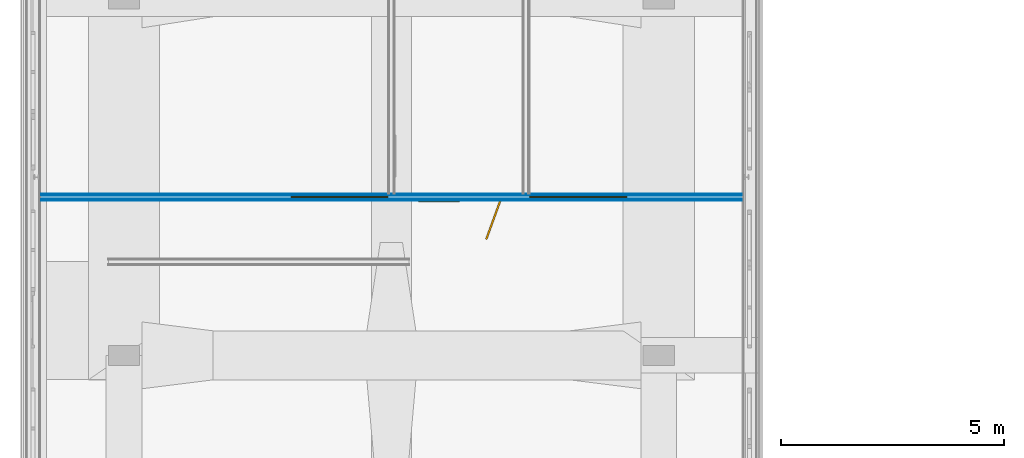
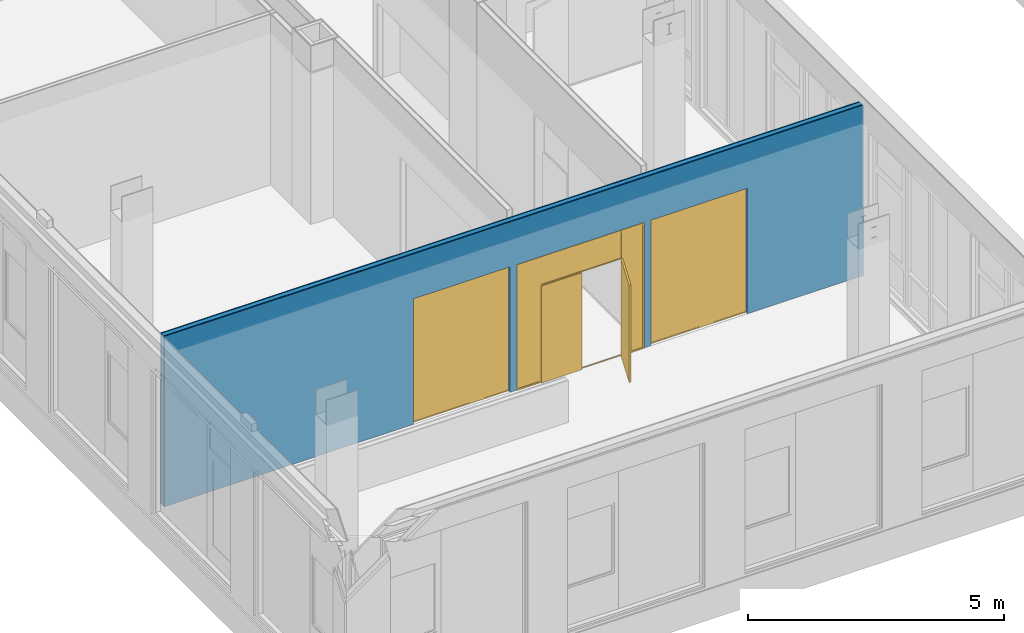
# One storey, part 68 of 94: 5 building element parts, 2 windows, 1 door, 3 openings, 1 element without a shape of its own.
"""IFC2X3 building model written with IfcOpenShell, lengths in millimetres."""

from ifc_helpers import new_model, entity, si_unit, converted_unit, derived_unit, money_unit, direction, frame, origin_with_axes, place, context, subcontext, project, spatial, open_shell, faceted_brep, surface_model, material, type_object, element, fill, aggregate, save


model = new_model("IFC2X3")

# Units and contexts
model_context = context("Model", 3, precision=0.01, world=origin_with_axes(), true_north=direction((0.0, 1.0)))
body_context = subcontext(model_context, "Body", "Model", "MODEL_VIEW")
ifc_project = project(units=[si_unit("LENGTHUNIT", "METRE", prefix="MILLI"), si_unit("AREAUNIT", "SQUARE_METRE"), si_unit("VOLUMEUNIT", "CUBIC_METRE"), converted_unit("PLANEANGLEUNIT", "DEGREE", entity("IfcPlaneAngleMeasure", 0.0174532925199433), si_unit("PLANEANGLEUNIT", "RADIAN"), dimensions=[0, 0, 0, 0, 0, 0, 0]), money_unit("EUR"), converted_unit("TIMEUNIT", "Year", entity("IfcTimeMeasure", 31557600.0), si_unit("TIMEUNIT", "SECOND"), dimensions=[0, 0, 1, 0, 0, 0, 0]), si_unit("MASSUNIT", "GRAM", prefix="KILO"), si_unit("THERMODYNAMICTEMPERATUREUNIT", "DEGREE_CELSIUS"), si_unit("LUMINOUSINTENSITYUNIT", "LUMEN"), si_unit("ENERGYUNIT", "JOULE", prefix="MEGA"), derived_unit("THERMALCONDUCTANCEUNIT", [(si_unit("POWERUNIT", "WATT"), 1), (si_unit("LENGTHUNIT", "METRE"), -1), (si_unit("THERMODYNAMICTEMPERATUREUNIT", "KELVIN"), -1)]), derived_unit("SPECIFICHEATCAPACITYUNIT", [(si_unit("ENERGYUNIT", "JOULE"), 1), (si_unit("MASSUNIT", "GRAM", prefix="KILO"), -1), (si_unit("THERMODYNAMICTEMPERATUREUNIT", "KELVIN"), -1)]), derived_unit("MASSDENSITYUNIT", [(si_unit("MASSUNIT", "GRAM", prefix="KILO"), 1), (si_unit("VOLUMEUNIT", "CUBIC_METRE"), -1)])], contexts=[model_context])

# Site, building, storey
site_placement = place(None, origin_with_axes())
site = spatial("IfcSite", under=ifc_project, at=site_placement, Name="<site naam>", CompositionType="ELEMENT")
building_placement = place(site_placement, origin_with_axes())
building = spatial("IfcBuilding", under=site, at=building_placement, Name="<Naam gebouw>", CompositionType="ELEMENT")
storey_placement = place(building_placement, frame((0.0, 0.0, 4250.0), z_axis=(0.0, 0.0, 1.0), x_axis=(1.0, 0.0, 0.0)))
storey = spatial("IfcBuildingStorey", under=building, at=storey_placement, Name="01 1e verdieping", CompositionType="ELEMENT", Elevation=4250.0)

# Door
door_style = type_object("IfcDoorStyle", Name="D2 bl zl2 27", ConstructionType="NOTDEFINED", OperationType="USERDEFINED", ParameterTakesPrecedence=False, Sizeable=False)
wall_placement = place(storey_placement, frame((3896.544439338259, -4526.565159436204, 0.0), z_axis=(0.0, 0.0, 1.0), x_axis=(-1.0, 0.0, 0.0)))
opening_2_placement = place(wall_placement, frame((6384.044275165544, 0.0, 0.0), z_axis=(0.0, 0.0, 1.0), x_axis=(1.0, 0.0, 0.0)))
door_placement = place(opening_2_placement, frame((-1437.499835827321, 0.0, 0.0), z_axis=(0.0, 0.0, 1.0), x_axis=(1.0, 0.0, 0.0)))
door = element("IfcDoor", 1, at=door_placement, inside=storey, type_object=door_style, Name="22_BI-F-17_305", ObjectType="DOOR", OverallHeight=3000.0, OverallWidth=2875.0, context=body_context, shape_type="SurfaceModel", body=[
    faceted_brep([(505.9728132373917, -30.00000000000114, 0.0), (505.9728132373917, -30.00000000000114, 11.99999999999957), (522.9728132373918, -30.00000000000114, 11.99999999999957), (522.9728132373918, -30.00000000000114, 0.0), (2339.972813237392, -30.00000000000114, 0.0), (2339.972813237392, -30.00000000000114, 11.99999999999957), (2322.972813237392, -30.00000000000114, 11.99999999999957), (2322.972813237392, -10.00000000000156, 11.99999999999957), (522.9728132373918, -10.00000000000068, 11.99999999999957), (522.9728132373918, -10.00000000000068, 0.0), (2322.972813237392, -10.00000000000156, 0.0), (2322.972813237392, -30.00000000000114, 0.0)], [[[0, 1, 2, 3]], [[4, 5, 1, 0]], [[1, 5, 6, 7, 8, 2]], [[3, 2, 8, 9]], [[0, 3, 9, 10, 11, 4]], [[11, 6, 5, 4]], [[10, 7, 6, 11]], [[9, 8, 7, 10]]]),
    faceted_brep([(0.0, 9.999999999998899, 0.0), (32.99999999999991, 9.999999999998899, 0.0), (32.99999999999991, -10.00000000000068, 0.0), (0.0, -10.00000000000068, 0.0), (0.0, 9.999999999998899, 2967.0), (32.99999999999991, 9.999999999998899, 2967.0), (32.99999999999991, 9.999999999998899, 33.00000000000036), (32.99999999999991, -10.00000000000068, 33.00000000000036), (32.99999999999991, -10.00000000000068, 2967.0), (0.0, -10.00000000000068, 2967.0)], [[[0, 1, 2, 3]], [[0, 4, 5, 6, 1]], [[1, 6, 7, 2]], [[3, 2, 7, 8, 9]], [[4, 0, 3, 9]], [[5, 4, 9, 8]], [[6, 5, 8, 7]]]),
    faceted_brep([(505.9728132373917, -10.00000000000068, 0.0), (505.9728132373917, -10.00000000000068, 2317.0), (522.9728132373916, -10.00000000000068, 2317.0), (522.9728132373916, -10.00000000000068, 2333.0), (522.9728132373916, -10.00000000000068, 2967.0), (480.9728132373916, -10.00000000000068, 2967.0), (480.9728132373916, -10.00000000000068, 32.99999999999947), (480.9728132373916, -10.00000000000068, 0.0), (505.9728132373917, 9.999999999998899, 0.0), (505.9728132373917, 9.999999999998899, 2317.0), (522.9728132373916, 9.999999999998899, 2317.0), (522.9728132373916, 9.999999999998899, 2333.0), (522.9728132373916, 9.999999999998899, 2967.0), (480.9728132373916, 9.999999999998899, 2967.0), (480.9728132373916, 9.999999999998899, 32.99999999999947), (480.9728132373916, 9.999999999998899, 0.0)], [[[0, 1, 2, 3, 4, 5, 6, 7]], [[1, 0, 8, 9]], [[10, 2, 1, 9]], [[2, 10, 11, 3]], [[12, 4, 3, 11]], [[13, 5, 4, 12]], [[14, 6, 5, 13]], [[15, 7, 6, 14]], [[8, 0, 7, 15]], [[9, 8, 15, 14, 13, 12, 11, 10]]]),
    faceted_brep([(32.99999999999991, 9.999999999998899, 33.00000000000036), (32.99999999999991, 9.999999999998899, 0.0), (32.99999999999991, -10.00000000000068, 0.0), (32.99999999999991, -10.00000000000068, 33.00000000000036), (480.9728132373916, 9.999999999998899, 33.00000000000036), (480.9728132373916, 9.999999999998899, 0.0), (480.9728132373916, -10.00000000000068, 0.0), (480.9728132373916, -10.00000000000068, 33.00000000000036)], [[[0, 1, 2, 3]], [[0, 4, 5, 1]], [[1, 5, 6, 2]], [[3, 2, 6, 7]], [[4, 0, 3, 7]], [[5, 4, 7, 6]]]),
    faceted_brep([(2874.999671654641, 9.999999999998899, 0.0), (2874.999671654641, 9.999999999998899, 2967.0), (2874.999671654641, -10.00000000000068, 2967.0), (2874.999671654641, -10.00000000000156, 0.0), (2841.999671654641, 9.999999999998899, 0.0), (2841.999671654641, 9.999999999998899, 33.00000000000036), (2841.999671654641, 9.999999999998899, 2967.0), (2841.999671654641, -10.00000000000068, 2967.0), (2841.999671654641, -10.00000000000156, 33.00000000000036), (2841.999671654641, -10.00000000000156, 0.0)], [[[0, 1, 2, 3]], [[0, 4, 5, 6, 1]], [[1, 6, 7, 2]], [[3, 2, 7, 8, 9]], [[4, 0, 3, 9]], [[5, 4, 9, 8]], [[6, 5, 8, 7]]]),
    faceted_brep([(2339.972813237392, -10.00000000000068, 2317.0), (2339.972813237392, -10.00000000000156, 0.0), (2364.972813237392, -10.00000000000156, 0.0), (2364.972813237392, -10.00000000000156, 32.99999999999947), (2364.972813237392, -10.00000000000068, 2967.0), (2322.972813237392, -10.00000000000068, 2967.0), (2322.972813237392, -10.00000000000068, 2333.0), (2322.972813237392, -10.00000000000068, 2317.0), (2339.972813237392, 9.999999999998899, 2317.0), (2339.972813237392, 9.999999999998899, 0.0), (2364.972813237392, 9.999999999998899, 0.0), (2364.972813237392, 9.999999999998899, 32.99999999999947), (2364.972813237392, 9.999999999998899, 2967.0), (2322.972813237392, 9.999999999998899, 2967.0), (2322.972813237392, 9.999999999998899, 2333.0), (2322.972813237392, 9.999999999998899, 2317.0)], [[[0, 1, 2, 3, 4, 5, 6, 7]], [[1, 0, 8, 9]], [[1, 9, 10, 2]], [[11, 3, 2, 10]], [[12, 4, 3, 11]], [[13, 5, 4, 12]], [[14, 6, 5, 13]], [[15, 7, 6, 14]], [[0, 7, 15, 8]], [[8, 15, 14, 13, 12, 11, 10, 9]]]),
    faceted_brep([(2364.972813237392, 9.999999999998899, 33.00000000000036), (2364.972813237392, 9.999999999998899, 0.0), (2364.972813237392, -10.00000000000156, 0.0), (2364.972813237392, -10.00000000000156, 33.00000000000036), (2841.999671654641, 9.999999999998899, 33.00000000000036), (2841.999671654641, 9.999999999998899, 0.0), (2841.999671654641, -10.00000000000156, 0.0), (2841.999671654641, -10.00000000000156, 33.00000000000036)], [[[0, 1, 2, 3]], [[0, 4, 5, 1]], [[1, 5, 6, 2]], [[3, 2, 6, 7]], [[4, 0, 3, 7]], [[5, 4, 7, 6]]]),
    faceted_brep([(0.0, 9.999999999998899, 3000.0), (0.0, 9.999999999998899, 2967.0), (0.0, -10.00000000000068, 2967.0), (0.0, -10.00000000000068, 3000.0), (2874.999671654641, 9.999999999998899, 3000.0), (2874.999671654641, 9.999999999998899, 2967.0), (2841.999671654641, 9.999999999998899, 2967.0), (2364.972813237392, 9.999999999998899, 2967.0), (2322.972813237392, 9.999999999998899, 2967.0), (522.9728132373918, 9.999999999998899, 2967.0), (480.9728132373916, 9.999999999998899, 2967.0), (32.99999999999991, 9.999999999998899, 2967.0), (32.99999999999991, -10.00000000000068, 2967.0), (480.9728132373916, -10.00000000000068, 2967.0), (522.9728132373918, -10.00000000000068, 2967.0), (2322.972813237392, -10.00000000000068, 2967.0), (2364.972813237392, -10.00000000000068, 2967.0), (2841.999671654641, -10.00000000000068, 2967.0), (2874.999671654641, -10.00000000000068, 2967.0), (2874.999671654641, -10.00000000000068, 3000.0)], [[[0, 1, 2, 3]], [[0, 4, 5, 6, 7, 8, 9, 10, 11, 1]], [[1, 11, 12, 2]], [[3, 2, 12, 13, 14, 15, 16, 17, 18, 19]], [[4, 0, 3, 19]], [[5, 4, 19, 18]], [[6, 5, 18, 17]], [[7, 6, 17, 16]], [[8, 7, 16, 15]], [[9, 8, 15, 14]], [[10, 9, 14, 13]], [[11, 10, 13, 12]]]),
    faceted_brep([(522.9728132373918, -10.00000000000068, 2317.0), (2322.972813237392, -10.00000000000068, 2317.0), (2322.972813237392, -10.00000000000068, 2333.0), (522.9728132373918, -10.00000000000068, 2333.0), (2322.972813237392, 9.999999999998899, 2317.0), (522.9728132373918, 9.999999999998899, 2317.0), (2322.972813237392, 9.999999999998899, 2333.0), (522.9728132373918, 9.999999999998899, 2333.0)], [[[0, 1, 2, 3]], [[4, 1, 0, 5]], [[1, 4, 6, 2]], [[7, 3, 2, 6]], [[5, 0, 3, 7]], [[4, 5, 7, 6]]]),
    faceted_brep([(2339.972813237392, 27.99999999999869, 0.0), (2339.972813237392, -12.00000000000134, 0.0), (1422.972813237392, -12.00000000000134, 0.0), (1422.972813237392, 27.99999999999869, 0.0), (2339.972813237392, 27.99999999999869, 2317.0), (2339.972813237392, -12.00000000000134, 2317.0), (1422.972813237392, -12.00000000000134, 2317.0), (1422.972813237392, 27.99999999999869, 2317.0)], [[[0, 1, 2, 3]], [[4, 5, 1, 0]], [[1, 5, 6, 2]], [[3, 2, 6, 7]], [[0, 3, 7, 4]], [[7, 6, 5, 4]]]),
    faceted_brep([(489.0583460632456, 16.15636257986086, 0.0), (802.6908174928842, 877.8544958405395, 0.0), (840.2785223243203, 864.1736901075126, 0.0), (526.6460508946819, 2.475556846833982, 0.0), (489.0583460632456, 16.15636257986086, 2317.0), (802.6908174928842, 877.8544958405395, 2317.0), (840.2785223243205, 864.1736901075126, 2317.0), (526.6460508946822, 2.475556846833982, 2317.0)], [[[0, 1, 2, 3]], [[0, 4, 5, 1]], [[1, 5, 6, 2]], [[3, 2, 6, 7]], [[4, 0, 3, 7]], [[5, 4, 7, 6]]]),
    surface_model("IfcShellBasedSurfaceModel", [(522.9728132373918, -16.0000000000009, 2333.0), (2322.972813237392, -16.0000000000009, 2333.0), (2322.972813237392, -16.0000000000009, 2967.0), (522.9728132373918, -16.0000000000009, 2967.0)], [open_shell([[[0, 1, 2, 3]]])]),
    surface_model("IfcShellBasedSurfaceModel", [(522.9728132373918, -4.000000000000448, 2333.0), (522.9728132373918, -4.000000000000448, 2967.0), (2322.972813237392, -4.000000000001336, 2967.0), (2322.972813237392, -4.000000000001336, 2333.0)], [open_shell([[[0, 1, 2, 3]]])]),
    surface_model("IfcShellBasedSurfaceModel", [(33.00000000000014, -16.0000000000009, 33.00000000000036), (480.9728132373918, -16.0000000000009, 33.00000000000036), (480.9728132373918, -16.0000000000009, 2967.0), (33.00000000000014, -16.0000000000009, 2967.0)], [open_shell([[[0, 1, 2, 3]]])]),
    surface_model("IfcShellBasedSurfaceModel", [(33.00000000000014, -4.000000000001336, 33.00000000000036), (33.00000000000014, -4.000000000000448, 2967.0), (480.9728132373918, -4.000000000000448, 2967.0), (480.9728132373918, -4.000000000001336, 33.00000000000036)], [open_shell([[[0, 1, 2, 3]]])]),
    surface_model("IfcShellBasedSurfaceModel", [(2364.972813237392, -16.0000000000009, 33.00000000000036), (2841.999671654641, -16.0000000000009, 33.00000000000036), (2841.999671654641, -16.0000000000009, 2967.0), (2364.972813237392, -16.0000000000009, 2967.0)], [open_shell([[[0, 1, 2, 3]]])]),
    surface_model("IfcShellBasedSurfaceModel", [(2364.972813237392, -4.000000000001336, 33.00000000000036), (2364.972813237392, -4.000000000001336, 2967.0), (2841.999671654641, -4.000000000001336, 2967.0), (2841.999671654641, -4.000000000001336, 33.00000000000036)], [open_shell([[[0, 1, 2, 3]]])]),
])

# Window
window_style = type_object("IfcWindowStyle", Name="R1 27", ConstructionType="NOTDEFINED", OperationType="SINGLE_PANEL", ParameterTakesPrecedence=False, Sizeable=False)
opening_1_placement = place(wall_placement, frame((9063.102106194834, 0.0, 0.0), z_axis=(0.0, 0.0, 1.0), x_axis=(1.0, 0.0, 0.0)))
window_1_placement = place(opening_1_placement, frame((1091.557666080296, 0.0, 0.0), z_axis=(0.0, 0.0, 1.0), x_axis=(-1.0, 0.0, 0.0)))
window_1 = element("IfcWindow", 2, at=window_1_placement, inside=storey, type_object=window_style, Name="22_BI-F-10_305", ObjectType="WINDOW", OverallHeight=3000.0, OverallWidth=2183.11, context=body_context, shape_type="SurfaceModel", body=[
    faceted_brep([(24.00000000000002, 65.00000000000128, 2976.0), (24.00000000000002, 89.00000000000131, 2976.0), (0.0, 89.00000000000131, 2976.0), (0.0, 65.00000000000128, 2976.0), (24.00000000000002, 65.00000000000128, 24.00000000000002), (24.00000000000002, 89.00000000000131, 24.00000000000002), (0.0, 89.00000000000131, 24.00000000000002), (0.0, 65.00000000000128, 24.00000000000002)], [[[0, 1, 2, 3]], [[4, 5, 1, 0]], [[1, 5, 6, 2]], [[3, 2, 6, 7]], [[0, 3, 7, 4]], [[7, 6, 5, 4]]]),
    faceted_brep([(2159.115332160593, 65.00000000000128, 24.00000000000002), (2159.115332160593, 89.00000000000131, 24.00000000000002), (2183.115332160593, 89.00000000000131, 24.00000000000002), (2183.115332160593, 65.00000000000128, 24.00000000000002), (2159.115332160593, 65.0000000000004, 2976.0), (2159.115332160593, 89.00000000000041, 2976.0), (2183.115332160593, 89.00000000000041, 2976.0), (2183.115332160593, 65.0000000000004, 2976.0)], [[[0, 1, 2, 3]], [[4, 5, 1, 0]], [[1, 5, 6, 2]], [[3, 2, 6, 7]], [[0, 3, 7, 4]], [[7, 6, 5, 4]]]),
    faceted_brep([(24.00000000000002, 65.00000000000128, 24.00000000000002), (24.00000000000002, 89.00000000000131, 24.00000000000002), (0.0, 89.00000000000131, 24.00000000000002), (0.0, 65.00000000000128, 24.00000000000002), (2159.115332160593, 65.00000000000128, 24.00000000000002), (2159.115332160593, 89.00000000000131, 24.00000000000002), (2183.115332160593, 89.00000000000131, 24.00000000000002), (2183.115332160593, 89.00000000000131, 0.0), (0.0, 89.00000000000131, 0.0), (0.0, 65.00000000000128, 0.0), (2183.115332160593, 65.00000000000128, 0.0), (2183.115332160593, 65.00000000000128, 24.00000000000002)], [[[0, 1, 2, 3]], [[4, 5, 1, 0]], [[1, 5, 6, 7, 8, 2]], [[3, 2, 8, 9]], [[0, 3, 9, 10, 11, 4]], [[11, 6, 5, 4]], [[10, 7, 6, 11]], [[9, 8, 7, 10]]]),
    faceted_brep([(2159.115332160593, 65.0000000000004, 2976.0), (2159.115332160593, 89.00000000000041, 2976.0), (2183.115332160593, 89.00000000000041, 2976.0), (2183.115332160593, 65.0000000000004, 2976.0), (24.00000000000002, 65.00000000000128, 2976.0), (24.00000000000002, 89.00000000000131, 2976.0), (0.0, 89.00000000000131, 2976.0), (0.0, 89.00000000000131, 3000.0), (2183.115332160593, 89.00000000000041, 3000.0), (2183.115332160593, 65.0000000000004, 3000.0), (0.0, 65.00000000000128, 3000.0), (0.0, 65.00000000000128, 2976.0)], [[[0, 1, 2, 3]], [[4, 5, 1, 0]], [[1, 5, 6, 7, 8, 2]], [[3, 2, 8, 9]], [[0, 3, 9, 10, 11, 4]], [[11, 6, 5, 4]], [[10, 7, 6, 11]], [[9, 8, 7, 10]]]),
    surface_model("IfcShellBasedSurfaceModel", [(24.00000000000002, 69.00000000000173, 24.00000000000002), (2159.115332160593, 69.00000000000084, 24.00000000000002), (2159.115332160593, 69.00000000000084, 2976.0), (24.00000000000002, 69.00000000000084, 2976.0)], [open_shell([[[0, 1, 2, 3]]])]),
    surface_model("IfcShellBasedSurfaceModel", [(24.00000000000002, 89.00000000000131, 24.00000000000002), (24.00000000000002, 89.00000000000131, 2976.0), (2159.115332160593, 89.00000000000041, 2976.0), (2159.115332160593, 89.00000000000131, 24.00000000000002)], [open_shell([[[0, 1, 2, 3]]])]),
])

opening_3_placement = place(wall_placement, frame((3704.986774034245, 0.0, 0.0), z_axis=(0.0, 0.0, 1.0), x_axis=(1.0, 0.0, 0.0)))
window_2_placement = place(opening_3_placement, frame((1091.557666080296, 0.0, 0.0), z_axis=(0.0, 0.0, 1.0), x_axis=(-1.0, 0.0, 0.0)))
window_2 = element("IfcWindow", 3, at=window_2_placement, inside=storey, type_object=window_style, Name="22_BI-F-10_305", ObjectType="WINDOW", OverallHeight=3000.0, OverallWidth=2183.11, context=body_context, shape_type="SurfaceModel", body=[
    faceted_brep([(2159.115332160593, 65.0000000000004, 2976.0), (2183.115332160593, 65.0000000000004, 2976.0), (2183.115332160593, 89.00000000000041, 2976.0), (2159.115332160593, 89.00000000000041, 2976.0), (2159.115332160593, 65.00000000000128, 24.00000000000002), (2183.115332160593, 65.00000000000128, 24.00000000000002), (2183.115332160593, 89.00000000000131, 24.00000000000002), (2159.115332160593, 89.00000000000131, 24.00000000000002)], [[[0, 1, 2, 3]], [[0, 4, 5, 1]], [[1, 5, 6, 2]], [[3, 2, 6, 7]], [[4, 0, 3, 7]], [[5, 4, 7, 6]]]),
    faceted_brep([(24.00000000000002, 65.00000000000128, 24.00000000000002), (0.0, 65.00000000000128, 24.00000000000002), (0.0, 89.00000000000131, 24.00000000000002), (24.00000000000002, 89.00000000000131, 24.00000000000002), (24.00000000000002, 65.00000000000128, 2976.0), (0.0, 65.00000000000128, 2976.0), (0.0, 89.00000000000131, 2976.0), (24.00000000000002, 89.00000000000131, 2976.0)], [[[0, 1, 2, 3]], [[0, 4, 5, 1]], [[1, 5, 6, 2]], [[3, 2, 6, 7]], [[4, 0, 3, 7]], [[5, 4, 7, 6]]]),
    faceted_brep([(2159.115332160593, 65.00000000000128, 24.00000000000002), (2183.115332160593, 65.00000000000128, 24.00000000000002), (2183.115332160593, 89.00000000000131, 24.00000000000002), (2159.115332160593, 89.00000000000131, 24.00000000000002), (24.00000000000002, 65.00000000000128, 24.00000000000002), (0.0, 65.00000000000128, 24.00000000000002), (0.0, 65.00000000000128, 0.0), (2183.115332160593, 65.00000000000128, 0.0), (2183.115332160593, 89.00000000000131, 0.0), (0.0, 89.00000000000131, 0.0), (0.0, 89.00000000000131, 24.00000000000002), (24.00000000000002, 89.00000000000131, 24.00000000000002)], [[[0, 1, 2, 3]], [[0, 4, 5, 6, 7, 1]], [[1, 7, 8, 2]], [[3, 2, 8, 9, 10, 11]], [[4, 0, 3, 11]], [[5, 4, 11, 10]], [[6, 5, 10, 9]], [[7, 6, 9, 8]]]),
    faceted_brep([(24.00000000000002, 65.00000000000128, 2976.0), (0.0, 65.00000000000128, 2976.0), (0.0, 89.00000000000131, 2976.0), (24.00000000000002, 89.00000000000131, 2976.0), (2159.115332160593, 65.0000000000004, 2976.0), (2183.115332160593, 65.0000000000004, 2976.0), (2183.115332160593, 65.0000000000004, 3000.0), (0.0, 65.00000000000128, 3000.0), (0.0, 89.00000000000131, 3000.0), (2183.115332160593, 89.00000000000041, 3000.0), (2183.115332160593, 89.00000000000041, 2976.0), (2159.115332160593, 89.00000000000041, 2976.0)], [[[0, 1, 2, 3]], [[0, 4, 5, 6, 7, 1]], [[1, 7, 8, 2]], [[3, 2, 8, 9, 10, 11]], [[4, 0, 3, 11]], [[5, 4, 11, 10]], [[6, 5, 10, 9]], [[7, 6, 9, 8]]]),
    surface_model("IfcShellBasedSurfaceModel", [(2159.115332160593, 69.00000000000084, 24.00000000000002), (2159.115332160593, 69.00000000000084, 2976.0), (24.00000000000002, 69.00000000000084, 2976.0), (24.00000000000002, 69.00000000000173, 24.00000000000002)], [open_shell([[[0, 1, 2, 3]]])]),
    surface_model("IfcShellBasedSurfaceModel", [(2159.115332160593, 89.00000000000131, 24.00000000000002), (24.00000000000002, 89.00000000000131, 24.00000000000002), (24.00000000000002, 89.00000000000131, 2976.0), (2159.115332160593, 89.00000000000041, 2976.0)], [open_shell([[[0, 1, 2, 3]]])]),
])

# Wall, opening
wall_type = type_object("IfcWallType", Name="MS-01 GF 150 ECO DGS/2.100.2.A 150", PredefinedType="NOTDEFINED")
wall = element("IfcWall", 4, at=wall_placement, inside=storey, type_object=wall_type, Name="22_Binnenwand_MS-01")
opening_1 = element("IfcOpeningElement", 5, at=opening_1_placement, cuts=wall, Name="22_BI-F-10_305", context=body_context, shape_type="Brep", body=[
    faceted_brep([(-1091.557666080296, -65.00000000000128, 0.0), (-1091.557666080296, -65.00000000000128, 3000.0), (-1091.557666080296, 1.000000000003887, 3000.0), (-1091.557666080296, 1.000000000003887, 0.0), (-1091.557666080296, -151.0000000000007, 0.0), (-1091.557666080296, -151.0000000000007, 3000.0), (1091.557666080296, -65.00000000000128, 3000.0), (1091.557666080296, 1.000000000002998, 3000.0), (1091.557666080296, -151.0000000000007, 3000.0), (1091.557666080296, 1.000000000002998, 0.0), (1091.557666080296, -65.00000000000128, 0.0), (1091.557666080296, -151.0000000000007, 0.0)], [[[0, 1, 2, 3]], [[1, 0, 4, 5]], [[6, 7, 2, 1, 5, 8]], [[7, 9, 3, 2]], [[0, 3, 9, 10, 11, 4]], [[5, 4, 11, 8]], [[6, 10, 9, 7]], [[10, 6, 8, 11]]]),
])

fill(opening_1, window_1)

# Opening
opening_2 = element("IfcOpeningElement", 6, at=opening_2_placement, cuts=wall, Name="22_BI-F-17_305", context=body_context, shape_type="Brep", body=[
    faceted_brep([(-1437.499835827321, -151.0000000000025, 3000.0), (-1437.499835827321, -151.0000000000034, 0.0), (1437.499835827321, -151.0000000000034, 0.0), (1437.499835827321, -151.0000000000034, 3000.0), (-1437.499835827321, 1.000000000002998, 3000.0), (-1437.499835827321, 1.00000000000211, 0.0), (1437.499835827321, 1.00000000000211, 0.0), (1437.499835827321, 1.00000000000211, 3000.0)], [[[0, 1, 2, 3]], [[4, 5, 1, 0]], [[5, 6, 2, 1]], [[6, 7, 3, 2]], [[7, 4, 0, 3]], [[6, 5, 4, 7]]]),
])

fill(opening_2, door)

opening_3 = element("IfcOpeningElement", 7, at=opening_3_placement, cuts=wall, Name="22_BI-F-10_305", context=body_context, shape_type="Brep", body=[
    faceted_brep([(-1091.557666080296, -65.00000000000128, 0.0), (-1091.557666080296, -65.00000000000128, 3000.0), (-1091.557666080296, 1.000000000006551, 3000.0), (-1091.557666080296, 1.000000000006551, 0.0), (-1091.557666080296, -151.0000000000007, 0.0), (-1091.557666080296, -151.0000000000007, 3000.0), (1091.557666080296, -65.00000000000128, 3000.0), (1091.557666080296, 1.000000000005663, 3000.0), (1091.557666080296, -151.0000000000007, 3000.0), (1091.557666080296, 1.000000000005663, 0.0), (1091.557666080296, -65.00000000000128, 0.0), (1091.557666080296, -151.0000000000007, 0.0)], [[[0, 1, 2, 3]], [[1, 0, 4, 5]], [[6, 7, 2, 1, 5, 8]], [[7, 9, 3, 2]], [[0, 3, 9, 10, 11, 4]], [[5, 4, 11, 8]], [[6, 10, 9, 7]], [[10, 6, 8, 11]]]),
])

fill(opening_3, window_2)

# Building element part
ifc_material_1 = material(Name="gipsplaat")
building_element_part_1_placement = place(wall_placement, origin_with_axes())
building_element_part_1 = element("IfcBuildingElementPart", 8, at=building_element_part_1_placement, material=ifc_material_1, Name="gipsplaat", context=body_context, shape_type="Brep", body=[
    faceted_brep([(15774.54443933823, -12.50000000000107, 4070.000000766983), (0.0, -12.50000000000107, 4070.000000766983), (0.0, -12.50000000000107, 0.0), (4946.544291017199, -12.50000000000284, 0.0), (4946.544291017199, -12.50000000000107, 3.000000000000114), (15774.54443933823, -12.50000000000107, 3.000000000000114), (0.0, 0.0, 4070.000000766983), (15774.54443933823, 1.589191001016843e-06, 4070.000000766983), (0.0, 0.0, 0.0), (4946.544291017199, -0.0002416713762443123, 0.0), (4946.544291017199, -0.0002416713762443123, 3.000000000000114), (15774.54443933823, 3.749613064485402e-05, 3.000000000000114)], [[[0, 1, 2, 3, 4, 5]], [[6, 1, 0, 7]], [[1, 6, 8, 2]], [[8, 9, 3, 2]], [[10, 4, 3, 9]], [[5, 4, 10, 11]], [[7, 0, 5, 11]], [[6, 7, 11, 10, 9, 8]]]),
])

building_element_part_2_placement = place(wall_placement, origin_with_axes())
building_element_part_2 = element("IfcBuildingElementPart", 9, at=building_element_part_2_placement, material=ifc_material_1, Name="gipsplaat", context=body_context, shape_type="Brep", body=[
    faceted_brep([(15774.54443933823, -137.5000000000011, 4070.000000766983), (0.0, -137.5000000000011, 4070.000000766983), (0.0, -137.5000000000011, 0.0), (4946.544291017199, -137.4999999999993, 0.0), (4946.544291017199, -137.5000000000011, 3.000000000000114), (15774.54443933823, -137.5000000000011, 3.000000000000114), (0.0, -125.0, 4070.000000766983), (15774.54443933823, -125.0000000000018, 4070.000000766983), (0.0, -125.0, 0.0), (4946.544291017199, -125.0000000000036, 0.0), (4946.544291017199, -125.0000000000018, 3.000000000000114), (15774.54443933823, -125.0000000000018, 3.000000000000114)], [[[0, 1, 2, 3, 4, 5]], [[6, 1, 0, 7]], [[1, 6, 8, 2]], [[8, 9, 3, 2]], [[10, 4, 3, 9]], [[5, 4, 10, 11]], [[7, 0, 5, 11]], [[6, 7, 11, 10, 9, 8]]]),
])

ifc_material_2 = material(Name="isolatie_steenwol LSW")
building_element_part_3_placement = place(wall_placement, origin_with_axes())
building_element_part_3 = element("IfcBuildingElementPart", 10, at=building_element_part_3_placement, material=ifc_material_2, Name="isolatie_steenwol LSW", context=body_context, shape_type="Brep", body=[
    faceted_brep([(15774.54443933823, -125.0000000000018, 4070.000000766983), (0.0, -125.0, 4070.000000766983), (0.0, -125.0, 0.0), (4946.544291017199, -125.0, 0.0), (4946.544291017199, -125.0000000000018, 3.000000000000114), (15774.54443933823, -125.0000000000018, 3.000000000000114), (0.0, -25.00000000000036, 4070.000000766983), (15774.54443933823, -25.00000000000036, 4070.000000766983), (0.0, -25.00000000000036, 0.0), (4946.544291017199, -25.00000000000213, 0.0), (4946.544291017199, -25.00000000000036, 3.000000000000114), (15774.54443933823, -25.00000000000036, 3.000000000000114)], [[[0, 1, 2, 3, 4, 5]], [[6, 1, 0, 7]], [[1, 6, 8, 2]], [[8, 9, 3, 2]], [[10, 4, 3, 9]], [[5, 4, 10, 11]], [[7, 0, 5, 11]], [[6, 7, 11, 10, 9, 8]]]),
])

building_element_part_4_placement = place(wall_placement, origin_with_axes())
building_element_part_4 = element("IfcBuildingElementPart", 11, at=building_element_part_4_placement, material=ifc_material_1, Name="gipsplaat", context=body_context, shape_type="Brep", body=[
    faceted_brep([(15774.54443933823, -150.0000000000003, 4070.000000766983), (0.0, -150.0000000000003, 4070.000000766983), (0.0, -150.0000000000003, 0.0), (4946.544291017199, -150.0000000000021, 0.0), (4946.544291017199, -150.0000000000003, 3.000000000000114), (15774.54443933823, -150.0000000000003, 3.000000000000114), (0.0, -137.5000000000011, 4070.000000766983), (15774.54443933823, -137.5000000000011, 4070.000000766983), (0.0, -137.5000000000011, 0.0), (4946.544291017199, -137.5000000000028, 0.0), (4946.544291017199, -137.5000000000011, 3.000000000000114), (15774.54443933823, -137.5000000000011, 3.000000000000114)], [[[0, 1, 2, 3, 4, 5]], [[6, 1, 0, 7]], [[1, 6, 8, 2]], [[8, 9, 3, 2]], [[10, 4, 3, 9]], [[5, 4, 10, 11]], [[7, 0, 5, 11]], [[6, 7, 11, 10, 9, 8]]]),
])

building_element_part_5_placement = place(wall_placement, origin_with_axes())
building_element_part_5 = element("IfcBuildingElementPart", 12, at=building_element_part_5_placement, material=ifc_material_1, Name="gipsplaat", context=body_context, shape_type="Brep", body=[
    faceted_brep([(15774.54443933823, -25.00000000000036, 4070.000000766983), (0.0, -25.00000000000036, 4070.000000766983), (0.0, -25.00000000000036, 0.0), (4946.544291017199, -25.00000000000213, 0.0), (4946.544291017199, -25.00000000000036, 3.000000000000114), (15774.54443933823, -25.00000000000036, 3.000000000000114), (0.0, -12.50000000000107, 4070.000000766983), (15774.54443933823, -12.50000000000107, 4070.000000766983), (0.0, -12.50000000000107, 0.0), (4946.544291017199, -12.50000000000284, 0.0), (4946.544291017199, -12.50000000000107, 3.000000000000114), (15774.54443933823, -12.50000000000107, 3.000000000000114)], [[[0, 1, 2, 3, 4, 5]], [[6, 1, 0, 7]], [[1, 6, 8, 2]], [[8, 9, 3, 2]], [[10, 4, 3, 9]], [[5, 4, 10, 11]], [[7, 0, 5, 11]], [[6, 7, 11, 10, 9, 8]]]),
])

aggregate(wall, [building_element_part_1, building_element_part_2, building_element_part_3, building_element_part_4, building_element_part_5])

save(model, "model.ifc")
